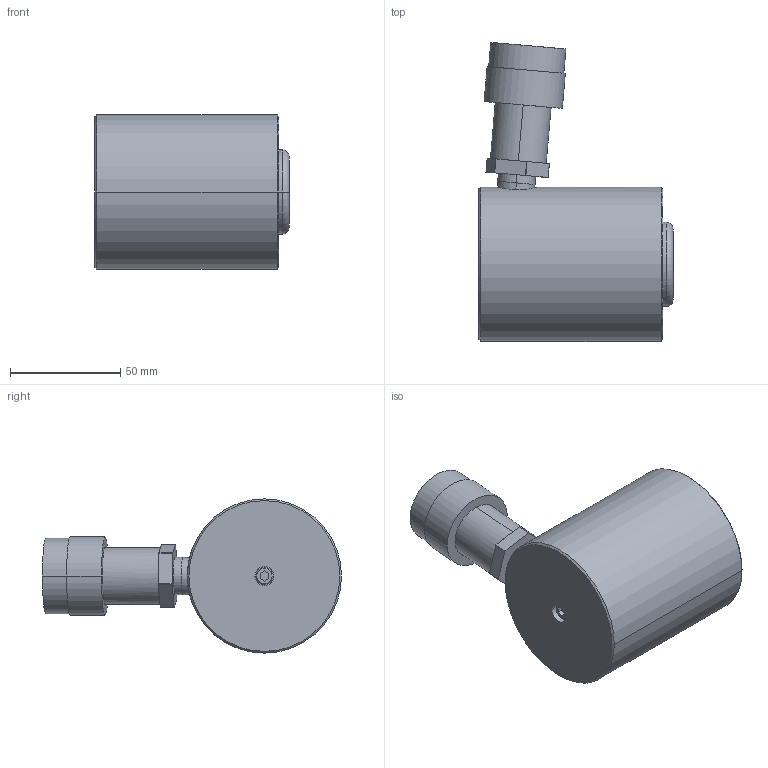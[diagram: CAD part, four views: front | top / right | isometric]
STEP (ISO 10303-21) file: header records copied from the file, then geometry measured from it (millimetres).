
FILE_DESCRIPTION((''),'2;1');
FILE_NAME('RCS101_SW','2012-12-14T',('chris.jenkins'),(''),'PRO/ENGINEER BY PARAMETRIC TECHNOLOGY CORPORATION, 2011490','PRO/ENGINEER BY PARAMETRIC TECHNOLOGY CORPORATION, 2011490','');
FILE_SCHEMA(('CONFIG_CONTROL_DESIGN'));
Length unit declared in the file: inch
Products named in the file (1): RCS101_SW
Bounding box: 87.88 x 135.43 x 69.85 mm (x, y, z)
Surface area: 48141.4 mm2 (no closed solid volume)
Topology: 0 solids, 6 shells, 109 faces, 276 edges, 179 vertices
Faces by surface type: plane 44, cylinder 42, cone 16, torus 7
Entity records: 3425 total; most frequent: CARTESIAN_POINT 726, DIRECTION 605, ORIENTED_EDGE 494, EDGE_CURVE 272, AXIS2_PLACEMENT_3D 244, VERTEX_POINT 179, CIRCLE 135, EDGE_LOOP 123
